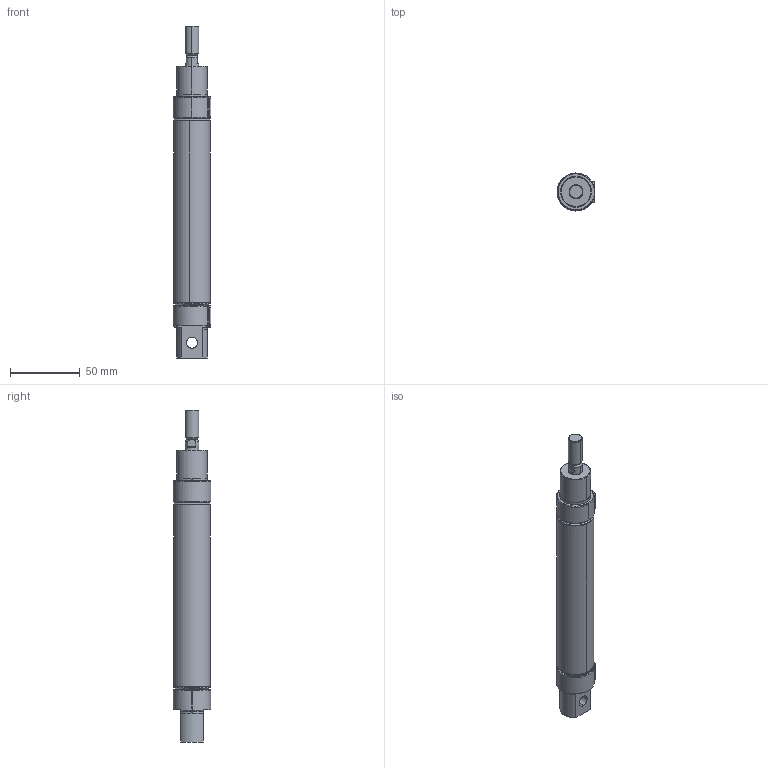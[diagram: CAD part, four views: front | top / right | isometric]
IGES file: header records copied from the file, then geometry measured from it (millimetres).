
Start section: SolidWorks IGES file using analytic representation for surfaces
Global section: file name: D:\ARICA 3D 禽Z軲LER\3D IGES\MA6432\MA6432 25X25\MA6432-25x100CYLINDER.IGS,1; native system: 5HSolidWorks 2013; preprocessor: SolidWorks 2013; author: user; date: 150508.101731; units: millimetre
Bounding box: 27 x 27 x 238 mm (x, y, z)
Surface area: 44020.4 mm2 (no closed solid volume)
Topology: 0 solids, 0 shells, 216 faces, 3515 edges, 3507 vertices
Faces by surface type: revolution 131, bspline 85
